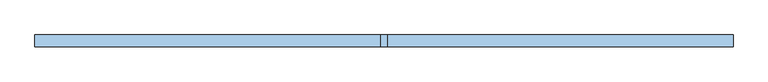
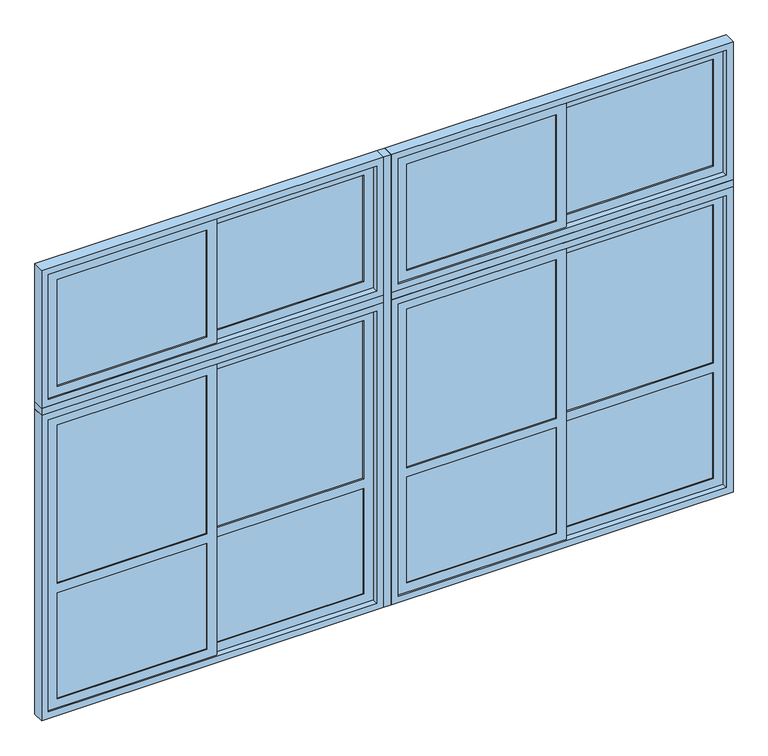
"""IFC4 building model written with IfcOpenShell, lengths in millimetres: window geometry, A11 Ventana_Corrediza_PC_4 hojas : A11.3 Ventana_Corrediza_PC_4 hojas 450x310 2."""

from ifc_helpers import new_model, si_unit, frame, origin, origin_with_axes, place, context, project, spatial, polyline, outline, extrude, source, transform, mapped, element, save


def window_a646bc80(model_context):
    return source(origin(), model_context, "Body", "SweptSolid", [
        extrude(outline(polyline([(-1169.0, 28.0), (-2142.0, 28.0), (-2142.0, 44.0), (-1169.0, 44.0), (-1169.0, 28.0)])), frame((0.0, 0.0, 108.0), z_axis=(0.0, 0.0, 1.0), x_axis=(1.0, 0.0, 0.0)), (0.0, 0.0, 1.0), 728.0),
        extrude(outline(polyline([(-133.0, 56.0), (-1106.0, 56.0), (-1106.0, 72.0), (-133.0, 72.0), (-133.0, 56.0)])), frame((0.0, 0.0, 108.0), z_axis=(0.0, 0.0, 1.0), x_axis=(1.0, 0.0, 0.0)), (0.0, 0.0, 1.0), 728.0),
        extrude(outline(polyline([(-1169.0, 31.5769719), (-2142.0, 31.5769719), (-2142.0, 40.4230281), (-1169.0, 40.4230281), (-1169.0, 31.5769719)])), frame((0.0, 0.0, 2258.0), z_axis=(0.0, 0.0, 1.0), x_axis=(1.0, 0.0, 0.0)), (0.0, 0.0, 1.0), 734.0),
        extrude(outline(polyline([(-1169.0, 31.5769719), (-2142.0, 31.5769719), (-2142.0, 40.4230281), (-1169.0, 40.4230281), (-1169.0, 31.5769719)])), frame((0.0, 0.0, 900.0), z_axis=(0.0, 0.0, 1.0), x_axis=(1.0, 0.0, 0.0)), (0.0, 0.0, 1.0), 1092.0),
        extrude(outline(polyline([(-133.0, 59.5769719), (-1106.0, 59.5769719), (-1106.0, 68.4230281), (-133.0, 68.4230281), (-133.0, 59.5769719)])), frame((0.0, 0.0, 2258.0), z_axis=(0.0, 0.0, 1.0), x_axis=(1.0, 0.0, 0.0)), (0.0, 0.0, 1.0), 734.0),
        extrude(outline(polyline([(-133.0, 59.5769719), (-1106.0, 59.5769719), (-1106.0, 68.4230281), (-133.0, 68.4230281), (-133.0, 59.5769719)])), frame((0.0, 0.0, 900.0), z_axis=(0.0, 0.0, 1.0), x_axis=(1.0, 0.0, 0.0)), (0.0, 0.0, 1.0), 1092.0),
        extrude(outline(polyline([(3055.0, -2205.0), (2195.0, -2205.0), (2195.0, -1106.0), (3055.0, -1106.0), (3055.0, -2205.0)]), holes=[polyline([(2992.0, -2142.0), (2992.0, -1169.0), (2258.0, -1169.0), (2258.0, -2142.0), (2992.0, -2142.0)])]), frame((0.0, 22.0, 0.0), z_axis=(0.0, 1.0, 0.0), x_axis=(0.0, 0.0, 1.0)), (0.0, 0.0, 1.0), 28.0),
        extrude(outline(polyline([(2055.0, -2205.0), (45.0, -2205.0), (45.0, -1106.0), (2055.0, -1106.0), (2055.0, -2205.0)]), holes=[polyline([(1992.0, -2142.0), (1992.0, -1169.0), (900.0, -1169.0), (900.0, -2142.0), (1992.0, -2142.0)]), polyline([(836.0, -2142.0), (836.0, -1169.0), (108.0, -1169.0), (108.0, -2142.0), (836.0, -2142.0)])]), frame((0.0, 22.0, 0.0), z_axis=(0.0, 1.0, 0.0), x_axis=(0.0, 0.0, 1.0)), (0.0, 0.0, 1.0), 28.0),
        extrude(outline(polyline([(3055.0, -1169.0), (2195.0, -1169.0), (2195.0, -70.0), (3055.0, -70.0), (3055.0, -1169.0)]), holes=[polyline([(2992.0, -1106.0), (2992.0, -133.0), (2258.0, -133.0), (2258.0, -1106.0), (2992.0, -1106.0)])]), frame((0.0, 50.0, 0.0), z_axis=(0.0, 1.0, 0.0), x_axis=(0.0, 0.0, 1.0)), (0.0, 0.0, 1.0), 28.0),
        extrude(outline(polyline([(2055.0, -1169.0), (45.0, -1169.0), (45.0, -70.0), (2055.0, -70.0), (2055.0, -1169.0)]), holes=[polyline([(1992.0, -1106.0), (1992.0, -133.0), (900.0, -133.0), (900.0, -1106.0), (1992.0, -1106.0)]), polyline([(836.0, -1106.0), (836.0, -133.0), (108.0, -133.0), (108.0, -1106.0), (836.0, -1106.0)])]), frame((0.0, 50.0, 0.0), z_axis=(0.0, 1.0, 0.0), x_axis=(0.0, 0.0, 1.0)), (0.0, 0.0, 1.0), 28.0),
        extrude(outline(polyline([(1106.0, 28.0), (133.0, 28.0), (133.0, 44.0), (1106.0, 44.0), (1106.0, 28.0)])), frame((0.0, 0.0, 108.0), z_axis=(0.0, 0.0, 1.0), x_axis=(1.0, 0.0, 0.0)), (0.0, 0.0, 1.0), 728.0),
        extrude(outline(polyline([(2142.0, 56.0), (1169.0, 56.0), (1169.0, 72.0), (2142.0, 72.0), (2142.0, 56.0)])), frame((0.0, 0.0, 108.0), z_axis=(0.0, 0.0, 1.0), x_axis=(1.0, 0.0, 0.0)), (0.0, 0.0, 1.0), 728.0),
        extrude(outline(polyline([(1106.0, 31.5769719), (133.0, 31.5769719), (133.0, 40.4230281), (1106.0, 40.4230281), (1106.0, 31.5769719)])), frame((0.0, 0.0, 2258.0), z_axis=(0.0, 0.0, 1.0), x_axis=(1.0, 0.0, 0.0)), (0.0, 0.0, 1.0), 734.0),
        extrude(outline(polyline([(1106.0, 31.5769719), (133.0, 31.5769719), (133.0, 40.4230281), (1106.0, 40.4230281), (1106.0, 31.5769719)])), frame((0.0, 0.0, 900.0), z_axis=(0.0, 0.0, 1.0), x_axis=(1.0, 0.0, 0.0)), (0.0, 0.0, 1.0), 1092.0),
        extrude(outline(polyline([(2142.0, 59.5769719), (1169.0, 59.5769719), (1169.0, 68.4230281), (2142.0, 68.4230281), (2142.0, 59.5769719)])), frame((0.0, 0.0, 2258.0), z_axis=(0.0, 0.0, 1.0), x_axis=(1.0, 0.0, 0.0)), (0.0, 0.0, 1.0), 734.0),
        extrude(outline(polyline([(2142.0, 59.5769719), (1169.0, 59.5769719), (1169.0, 68.4230281), (2142.0, 68.4230281), (2142.0, 59.5769719)])), frame((0.0, 0.0, 900.0), z_axis=(0.0, 0.0, 1.0), x_axis=(1.0, 0.0, 0.0)), (0.0, 0.0, 1.0), 1092.0),
        extrude(outline(polyline([(45.0, 70.0), (45.0, 1169.0), (2055.0, 1169.0), (2055.0, 70.0), (45.0, 70.0)]), holes=[polyline([(900.0, 133.0), (1992.0, 133.0), (1992.0, 1106.0), (900.0, 1106.0), (900.0, 133.0)]), polyline([(108.0, 133.0), (836.0, 133.0), (836.0, 1106.0), (108.0, 1106.0), (108.0, 133.0)])]), frame((0.0, 22.0, 0.0), z_axis=(0.0, 1.0, 0.0), x_axis=(0.0, 0.0, 1.0)), (0.0, 0.0, 1.0), 28.0),
        extrude(outline(polyline([(3055.0, 70.0), (2195.0, 70.0), (2195.0, 1169.0), (3055.0, 1169.0), (3055.0, 70.0)]), holes=[polyline([(2258.0, 133.0), (2992.0, 133.0), (2992.0, 1106.0), (2258.0, 1106.0), (2258.0, 133.0)])]), frame((0.0, 22.0, 0.0), z_axis=(0.0, 1.0, 0.0), x_axis=(0.0, 0.0, 1.0)), (0.0, 0.0, 1.0), 28.0),
        extrude(outline(polyline([(2055.0, 2205.0), (2055.0, 1106.0), (45.0, 1106.0), (45.0, 2205.0), (2055.0, 2205.0)]), holes=[polyline([(1992.0, 1169.0), (1992.0, 2142.0), (900.0, 2142.0), (900.0, 1169.0), (1992.0, 1169.0)]), polyline([(836.0, 1169.0), (836.0, 2142.0), (108.0, 2142.0), (108.0, 1169.0), (836.0, 1169.0)])]), frame((0.0, 50.0, 0.0), z_axis=(0.0, 1.0, 0.0), x_axis=(0.0, 0.0, 1.0)), (0.0, 0.0, 1.0), 28.0),
        extrude(outline(polyline([(2195.0, 1106.0), (2195.0, 2205.0), (3055.0, 2205.0), (3055.0, 1106.0), (2195.0, 1106.0)]), holes=[polyline([(2992.0, 1169.0), (2992.0, 2142.0), (2258.0, 2142.0), (2258.0, 1169.0), (2992.0, 1169.0)])]), frame((0.0, 50.0, 0.0), z_axis=(0.0, 1.0, 0.0), x_axis=(0.0, 0.0, 1.0)), (0.0, 0.0, 1.0), 28.0),
        extrude(outline(polyline([(2100.0, 25.0), (0.0, 25.0), (0.0, 2250.0), (2100.0, 2250.0), (2100.0, 25.0)]), holes=[polyline([(2055.0, 70.0), (2055.0, 2205.0), (45.0, 2205.0), (45.0, 70.0), (2055.0, 70.0)])]), frame((0.0, 12.5, 0.0), z_axis=(0.0, 1.0, 0.0), x_axis=(0.0, 0.0, 1.0)), (0.0, 0.0, 1.0), 75.0),
        extrude(outline(polyline([(2100.0, -2250.0), (0.0, -2250.0), (0.0, -25.0), (2100.0, -25.0), (2100.0, -2250.0)]), holes=[polyline([(2055.0, -2205.0), (2055.0, -70.0), (45.0, -70.0), (45.0, -2205.0), (2055.0, -2205.0)])]), frame((0.0, 12.5, 0.0), z_axis=(0.0, 1.0, 0.0), x_axis=(0.0, 0.0, 1.0)), (0.0, 0.0, 1.0), 75.0),
        extrude(outline(polyline([(3100.0, 25.0), (2150.0, 25.0), (2150.0, 2250.0), (3100.0, 2250.0), (3100.0, 25.0)]), holes=[polyline([(3055.0, 70.0), (3055.0, 2205.0), (2195.0, 2205.0), (2195.0, 70.0), (3055.0, 70.0)])]), frame((0.0, 12.5, 0.0), z_axis=(0.0, 1.0, 0.0), x_axis=(0.0, 0.0, 1.0)), (0.0, 0.0, 1.0), 75.0),
        extrude(outline(polyline([(2150.0, -2250.0), (2150.0, -25.0), (3100.0, -25.0), (3100.0, -2250.0), (2150.0, -2250.0)]), holes=[polyline([(3055.0, -2205.0), (3055.0, -70.0), (2195.0, -70.0), (2195.0, -2205.0), (3055.0, -2205.0)])]), frame((0.0, 12.5, 0.0), z_axis=(0.0, 1.0, 0.0), x_axis=(0.0, 0.0, 1.0)), (0.0, 0.0, 1.0), 75.0),
        extrude(outline(polyline([(2250.0, 12.5), (25.0, 12.5), (25.0, 87.5), (2250.0, 87.5), (2250.0, 12.5)])), frame((0.0, 0.0, 2100.0), z_axis=(0.0, 0.0, 1.0), x_axis=(1.0, 0.0, 0.0)), (0.0, 0.0, 1.0), 50.0),
        extrude(outline(polyline([(-25.0, 12.5), (-2250.0, 12.5), (-2250.0, 87.5), (-25.0, 87.5), (-25.0, 12.5)])), frame((0.0, 0.0, 2100.0), z_axis=(0.0, 0.0, 1.0), x_axis=(1.0, 0.0, 0.0)), (0.0, 0.0, 1.0), 50.0),
        extrude(outline(polyline([(25.0, 12.5), (-25.0, 12.5), (-25.0, 87.5), (25.0, 87.5), (25.0, 12.5)])), origin_with_axes(), (0.0, 0.0, 1.0), 3100.0),
    ])


if __name__ == "__main__":
    model = new_model("IFC4")
    model_context = context("Model", 3, world=origin())
    ifc_project = project(units=[si_unit("LENGTHUNIT", "METRE", prefix="MILLI")], contexts=[model_context])
    site = spatial("IfcSite", under=ifc_project)
    building = spatial("IfcBuilding", under=site)
    placement = place(None, origin())
    window_shape = window_a646bc80(model_context)
    element("IfcWindow", 1, ObjectType="A11 Ventana_Corrediza_PC_4 hojas : A11.3 Ventana_Corrediza_PC_4 hojas 450x310 2", at=placement, inside=building, context=model_context, shape_type="MappedRepresentation", body=[
        mapped(window_shape, transform((0.0, 0.0, 0.0), x_axis=(1.0, 0.0, 0.0), y_axis=(0.0, 1.0, 0.0), z_axis=(0.0, 0.0, 1.0))),
    ])
    save(model, "model.ifc")
